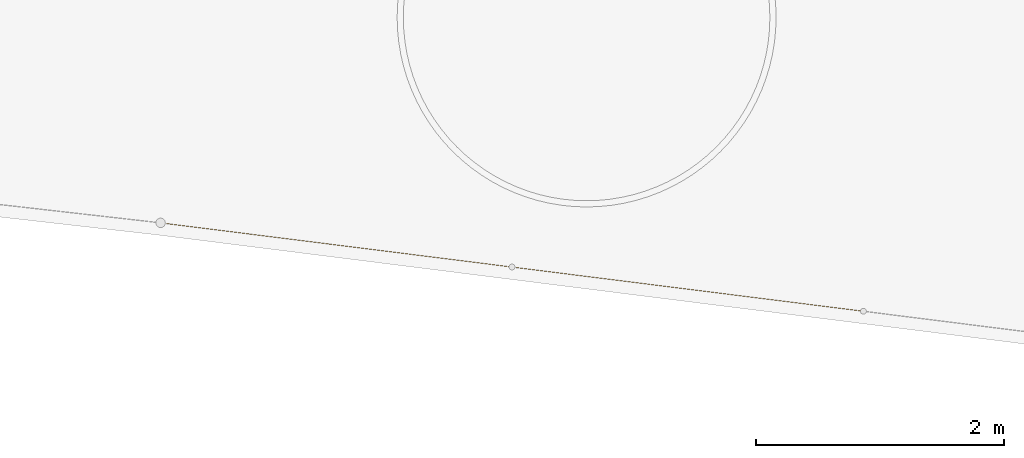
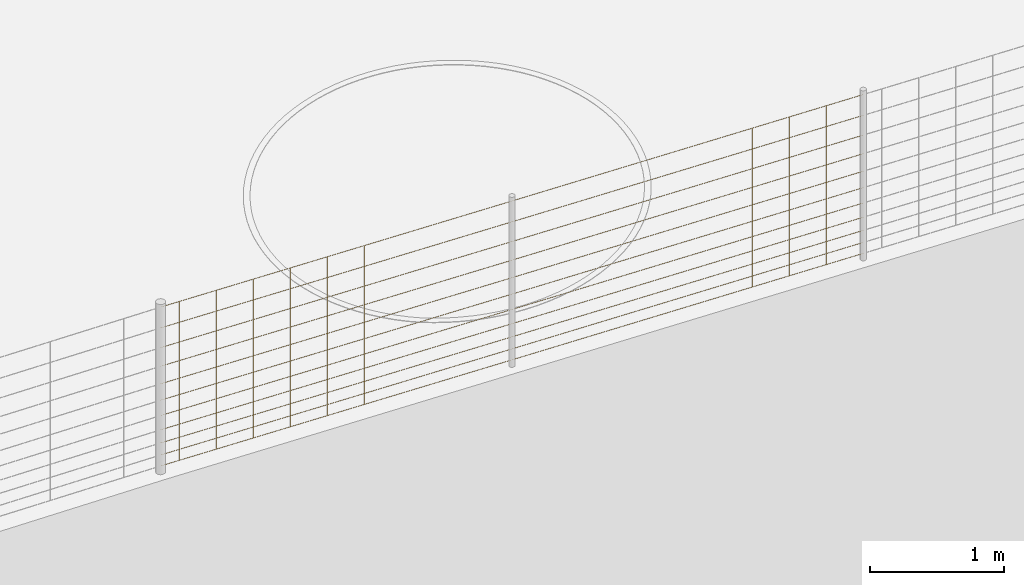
# Not in any storey, part 48 of 72: 2 railings.
"""IFC4 model written with IfcOpenShell, lengths in metres."""

from ifc_helpers import new_model, si_unit, direction, frame, origin_with_axes, place, context, subcontext, project, spatial, polygons, material, element, save


model = new_model("IFC4")

# Units and contexts
model_context = context("Model", 3, precision=1e-05, world=origin_with_axes(), true_north=direction((0.0, 1.0)))
body_context = subcontext(model_context, "Body", "Model", "MODEL_VIEW")
ifc_project = project(units=[si_unit("AREAUNIT", "SQUARE_METRE"), si_unit("VOLUMEUNIT", "CUBIC_METRE"), si_unit("LENGTHUNIT", "METRE")], contexts=[model_context])

# Site
site_placement = place(None, origin_with_axes())
site = spatial("IfcSite", under=ifc_project, at=site_placement, Name="Lares · Rua das Mercês · artigo 4771")

# Railings
ifc_material = material(Name="Aço galvanizado / Stahl verzinkt", Category="steel")
railing_1_placement = place(site_placement, frame((0.0, 0.0, 0.0), z_axis=(0.0, 0.0, 1.0), x_axis=(1.0, -1.03767253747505e-17, 0.0)))
element("IfcRailing", 1, at=railing_1_placement, inside=site, material=ifc_material, Name="Vedação · rede ovelheira 1.006", ObjectType="SHEEP_WIRE_FENCE", PredefinedType="USERDEFINED", context=body_context, shape_type="Tessellation", body=[
    polygons([(76.9519378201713, -5.73424272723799, 15.508550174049), (76.9518535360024, -5.73574394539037, 15.5070537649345), (76.9515634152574, -5.73721927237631, 15.508550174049), (76.9516476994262, -5.73571805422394, 15.5100465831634), (74.1236070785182, -5.37848097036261, 15.3109487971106), (74.1235227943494, -5.37998218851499, 15.3094523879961), (74.1232326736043, -5.38145751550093, 15.3109487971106), (74.1233169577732, -5.37995629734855, 15.3124452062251), (76.9519378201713, -5.73424272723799, 15.608550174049), (76.9518535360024, -5.73574394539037, 15.6070537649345), (76.9515634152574, -5.73721927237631, 15.608550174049), (76.9516476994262, -5.73571805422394, 15.6100465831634), (74.1236070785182, -5.37848097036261, 15.4109487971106), (74.1235227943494, -5.37998218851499, 15.4094523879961), (74.1232326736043, -5.38145751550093, 15.4109487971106), (74.1233169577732, -5.37995629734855, 15.4124452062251), (76.9519378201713, -5.73424272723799, 15.718550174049), (76.9518535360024, -5.73574394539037, 15.7170537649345), (76.9515634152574, -5.73721927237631, 15.718550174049), (76.9516476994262, -5.73571805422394, 15.7200465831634), (74.1236070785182, -5.37848097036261, 15.5209487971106), (74.1235227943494, -5.37998218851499, 15.5194523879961), (74.1232326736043, -5.38145751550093, 15.5209487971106), (74.1233169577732, -5.37995629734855, 15.5224452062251), (76.9519378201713, -5.73424272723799, 15.838550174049), (76.9518535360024, -5.73574394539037, 15.8370537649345), (76.9515634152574, -5.73721927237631, 15.838550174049), (76.9516476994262, -5.73571805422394, 15.8400465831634), (74.1236070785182, -5.37848097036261, 15.6409487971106), (74.1235227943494, -5.37998218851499, 15.6394523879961), (74.1232326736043, -5.38145751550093, 15.6409487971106), (74.1233169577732, -5.37995629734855, 15.6424452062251), (76.9519378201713, -5.73424272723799, 15.968550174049), (76.9518535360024, -5.73574394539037, 15.9670537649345), (76.9515634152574, -5.73721927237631, 15.968550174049), (76.9516476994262, -5.73571805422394, 15.9700465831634), (74.1236070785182, -5.37848097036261, 15.7709487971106), (74.1235227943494, -5.37998218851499, 15.7694523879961), (74.1232326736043, -5.38145751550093, 15.7709487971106), (74.1233169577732, -5.37995629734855, 15.7724452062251), (76.9519378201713, -5.73424272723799, 16.108550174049), (76.9518535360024, -5.73574394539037, 16.1070537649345), (76.9515634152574, -5.73721927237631, 16.108550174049), (76.9516476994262, -5.73571805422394, 16.1100465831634), (74.1236070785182, -5.37848097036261, 15.9109487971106), (74.1235227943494, -5.37998218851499, 15.9094523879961), (74.1232326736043, -5.38145751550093, 15.9109487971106), (74.1233169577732, -5.37995629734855, 15.9124452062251), (76.9519378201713, -5.73424272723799, 16.258550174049), (76.9518535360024, -5.73574394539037, 16.2570537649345), (76.9515634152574, -5.73721927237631, 16.258550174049), (76.9516476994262, -5.73571805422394, 16.2600465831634), (74.1236070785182, -5.37848097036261, 16.0609487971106), (74.1235227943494, -5.37998218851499, 16.0594523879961), (74.1232326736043, -5.38145751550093, 16.0609487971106), (74.1233169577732, -5.37995629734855, 16.0624452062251), (76.9519378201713, -5.73424272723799, 16.418550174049), (76.9518535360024, -5.73574394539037, 16.4170537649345), (76.9515634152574, -5.73721927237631, 16.418550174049), (76.9516476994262, -5.73571805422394, 16.4200465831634), (74.1236070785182, -5.37848097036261, 16.2209487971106), (74.1235227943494, -5.37998218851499, 16.2194523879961), (74.1232326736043, -5.38145751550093, 16.2209487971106), (74.1233169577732, -5.37995629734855, 16.2224452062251), (76.9519378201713, -5.73424272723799, 16.588550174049), (76.9518535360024, -5.73574394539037, 16.5870537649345), (76.9515634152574, -5.73721927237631, 16.588550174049), (76.9516476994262, -5.73571805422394, 16.5900465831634), (74.1236070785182, -5.37848097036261, 16.3909487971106), (74.1235227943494, -5.37998218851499, 16.3894523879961), (74.1232326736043, -5.38145751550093, 16.3909487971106), (74.1233169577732, -5.37995629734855, 16.3924452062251), (76.9519378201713, -5.73424272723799, 16.768550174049), (76.9518535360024, -5.73574394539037, 16.7670537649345), (76.9515634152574, -5.73721927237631, 16.768550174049), (76.9516476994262, -5.73571805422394, 16.7700465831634), (74.1236070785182, -5.37848097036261, 16.5709487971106), (74.1235227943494, -5.37998218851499, 16.5694523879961), (74.1232326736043, -5.38145751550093, 16.5709487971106), (74.1233169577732, -5.37995629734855, 16.5724452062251), (76.9519378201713, -5.73424272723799, 16.958550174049), (76.9518535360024, -5.73574394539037, 16.9570537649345), (76.9515634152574, -5.73721927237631, 16.958550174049), (76.9516476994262, -5.73571805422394, 16.9600465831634), (74.1236070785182, -5.37848097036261, 16.7609487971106), (74.1235227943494, -5.37998218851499, 16.7594523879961), (74.1232326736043, -5.38145751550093, 16.7609487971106), (74.1233169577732, -5.37995629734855, 16.7624452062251), (76.6540961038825, -5.69679050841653, 15.4877545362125), (76.6525961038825, -5.69829050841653, 15.4877545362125), (76.6540961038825, -5.69979050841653, 15.4877545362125), (76.6555961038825, -5.69829050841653, 15.4877545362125), (76.6540961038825, -5.69679050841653, 16.9377545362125), (76.6525961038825, -5.69829050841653, 16.9377545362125), (76.6540961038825, -5.69979050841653, 16.9377545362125), (76.6555961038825, -5.69829050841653, 16.9377545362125), (76.3564415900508, -5.65935001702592, 15.4669588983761), (76.3549415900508, -5.66085001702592, 15.4669588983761), (76.3564415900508, -5.66235001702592, 15.4669588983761), (76.3579415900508, -5.66085001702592, 15.4669588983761), (76.3564415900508, -5.65935001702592, 16.9169588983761), (76.3549415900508, -5.66085001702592, 16.9169588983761), (76.3564415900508, -5.66235001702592, 16.9169588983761), (76.3579415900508, -5.66085001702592, 16.9169588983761), (76.058787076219, -5.6219095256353, 15.4461632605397), (76.057287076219, -5.6234095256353, 15.4461632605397), (76.058787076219, -5.6249095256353, 15.4461632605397), (76.060287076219, -5.6234095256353, 15.4461632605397), (76.058787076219, -5.6219095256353, 16.8961632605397), (76.057287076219, -5.6234095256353, 16.8961632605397), (76.058787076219, -5.6249095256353, 16.8961632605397), (76.060287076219, -5.6234095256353, 16.8961632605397), (75.7611325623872, -5.58446903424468, 15.4253676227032), (75.7596325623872, -5.58596903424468, 15.4253676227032), (75.7611325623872, -5.58746903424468, 15.4253676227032), (75.7626325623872, -5.58596903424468, 15.4253676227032), (75.7611325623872, -5.58446903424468, 16.8753676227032), (75.7596325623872, -5.58596903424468, 16.8753676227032), (75.7611325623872, -5.58746903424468, 16.8753676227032), (75.7626325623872, -5.58596903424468, 16.8753676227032), (75.4634780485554, -5.54702854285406, 15.4045719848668), (75.4619780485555, -5.54852854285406, 15.4045719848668), (75.4634780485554, -5.55002854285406, 15.4045719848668), (75.4649780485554, -5.54852854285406, 15.4045719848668), (75.4634780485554, -5.54702854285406, 16.8545719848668), (75.4619780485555, -5.54852854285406, 16.8545719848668), (75.4634780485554, -5.55002854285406, 16.8545719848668), (75.4649780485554, -5.54852854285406, 16.8545719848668), (75.1658235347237, -5.50958805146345, 15.3837763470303), (75.1643235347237, -5.51108805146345, 15.3837763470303), (75.1658235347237, -5.51258805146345, 15.3837763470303), (75.1673235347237, -5.51108805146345, 15.3837763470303), (75.1658235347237, -5.50958805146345, 16.8337763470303), (75.1643235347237, -5.51108805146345, 16.8337763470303), (75.1658235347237, -5.51258805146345, 16.8337763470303), (75.1673235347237, -5.51108805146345, 16.8337763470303), (74.8681690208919, -5.47214756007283, 15.3629807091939), (74.8666690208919, -5.47364756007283, 15.3629807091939), (74.8681690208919, -5.47514756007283, 15.3629807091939), (74.8696690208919, -5.47364756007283, 15.3629807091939), (74.8681690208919, -5.47214756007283, 16.8129807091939), (74.8666690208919, -5.47364756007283, 16.8129807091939), (74.8681690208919, -5.47514756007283, 16.8129807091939), (74.8696690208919, -5.47364756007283, 16.8129807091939), (74.5705145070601, -5.43470706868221, 15.3421850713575), (74.5690145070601, -5.43620706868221, 15.3421850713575), (74.5705145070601, -5.43770706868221, 15.3421850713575), (74.5720145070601, -5.43620706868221, 15.3421850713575), (74.5705145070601, -5.43470706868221, 16.7921850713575), (74.5690145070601, -5.43620706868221, 16.7921850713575), (74.5705145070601, -5.43770706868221, 16.7921850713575), (74.5720145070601, -5.43620706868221, 16.7921850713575), (74.2728599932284, -5.39726657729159, 15.321389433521), (74.2713599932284, -5.39876657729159, 15.321389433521), (74.2728599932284, -5.40026657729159, 15.321389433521), (74.2743599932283, -5.39876657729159, 15.321389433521), (74.2728599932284, -5.39726657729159, 16.771389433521), (74.2713599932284, -5.39876657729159, 16.771389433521), (74.2728599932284, -5.40026657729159, 16.771389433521), (74.2743599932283, -5.39876657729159, 16.771389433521)], [[[4, 3, 2, 1]], [[5, 6, 7, 8]], [[1, 2, 6, 5]], [[2, 3, 7, 6]], [[3, 4, 8, 7]], [[4, 1, 5, 8]], [[12, 11, 10, 9]], [[13, 14, 15, 16]], [[9, 10, 14, 13]], [[10, 11, 15, 14]], [[11, 12, 16, 15]], [[12, 9, 13, 16]], [[20, 19, 18, 17]], [[21, 22, 23, 24]], [[17, 18, 22, 21]], [[18, 19, 23, 22]], [[19, 20, 24, 23]], [[20, 17, 21, 24]], [[28, 27, 26, 25]], [[29, 30, 31, 32]], [[25, 26, 30, 29]], [[26, 27, 31, 30]], [[27, 28, 32, 31]], [[28, 25, 29, 32]], [[36, 35, 34, 33]], [[37, 38, 39, 40]], [[33, 34, 38, 37]], [[34, 35, 39, 38]], [[35, 36, 40, 39]], [[36, 33, 37, 40]], [[44, 43, 42, 41]], [[45, 46, 47, 48]], [[41, 42, 46, 45]], [[42, 43, 47, 46]], [[43, 44, 48, 47]], [[44, 41, 45, 48]], [[52, 51, 50, 49]], [[53, 54, 55, 56]], [[49, 50, 54, 53]], [[50, 51, 55, 54]], [[51, 52, 56, 55]], [[52, 49, 53, 56]], [[60, 59, 58, 57]], [[61, 62, 63, 64]], [[57, 58, 62, 61]], [[58, 59, 63, 62]], [[59, 60, 64, 63]], [[60, 57, 61, 64]], [[68, 67, 66, 65]], [[69, 70, 71, 72]], [[65, 66, 70, 69]], [[66, 67, 71, 70]], [[67, 68, 72, 71]], [[68, 65, 69, 72]], [[76, 75, 74, 73]], [[77, 78, 79, 80]], [[73, 74, 78, 77]], [[74, 75, 79, 78]], [[75, 76, 80, 79]], [[76, 73, 77, 80]], [[84, 83, 82, 81]], [[85, 86, 87, 88]], [[81, 82, 86, 85]], [[82, 83, 87, 86]], [[83, 84, 88, 87]], [[84, 81, 85, 88]], [[92, 91, 90, 89]], [[93, 94, 95, 96]], [[89, 90, 94, 93]], [[90, 91, 95, 94]], [[91, 92, 96, 95]], [[92, 89, 93, 96]], [[100, 99, 98, 97]], [[101, 102, 103, 104]], [[97, 98, 102, 101]], [[98, 99, 103, 102]], [[99, 100, 104, 103]], [[100, 97, 101, 104]], [[108, 107, 106, 105]], [[109, 110, 111, 112]], [[105, 106, 110, 109]], [[106, 107, 111, 110]], [[107, 108, 112, 111]], [[108, 105, 109, 112]], [[116, 115, 114, 113]], [[117, 118, 119, 120]], [[113, 114, 118, 117]], [[114, 115, 119, 118]], [[115, 116, 120, 119]], [[116, 113, 117, 120]], [[124, 123, 122, 121]], [[125, 126, 127, 128]], [[121, 122, 126, 125]], [[122, 123, 127, 126]], [[123, 124, 128, 127]], [[124, 121, 125, 128]], [[132, 131, 130, 129]], [[133, 134, 135, 136]], [[129, 130, 134, 133]], [[130, 131, 135, 134]], [[131, 132, 136, 135]], [[132, 129, 133, 136]], [[140, 139, 138, 137]], [[141, 142, 143, 144]], [[137, 138, 142, 141]], [[138, 139, 143, 142]], [[139, 140, 144, 143]], [[140, 137, 141, 144]], [[148, 147, 146, 145]], [[149, 150, 151, 152]], [[145, 146, 150, 149]], [[146, 147, 151, 150]], [[147, 148, 152, 151]], [[148, 145, 149, 152]], [[156, 155, 154, 153]], [[157, 158, 159, 160]], [[153, 154, 158, 157]], [[154, 155, 159, 158]], [[155, 156, 160, 159]], [[156, 153, 157, 160]]]),
])
railing_2_placement = place(site_placement, frame((0.0, 0.0, 0.0), z_axis=(0.0, 0.0, 1.0), x_axis=(1.0, -1.03767253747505e-17, 0.0)))
element("IfcRailing", 2, at=railing_2_placement, inside=site, material=ifc_material, Name="Vedação · rede ovelheira 1.007", ObjectType="SHEEP_WIRE_FENCE", PredefinedType="USERDEFINED", context=body_context, shape_type="Tessellation", body=[
    polygons([(74.1236070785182, -5.37848097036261, 15.3109487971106), (74.1235209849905, -5.37998196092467, 15.3094522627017), (74.1232326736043, -5.38145751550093, 15.3109487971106), (74.1233187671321, -5.37995652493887, 15.3124453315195), (71.2952763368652, -5.02271921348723, 15.116837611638), (71.2951902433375, -5.02422020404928, 15.1153410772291), (71.2949019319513, -5.02569575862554, 15.116837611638), (71.2949880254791, -5.02419476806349, 15.1183341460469), (74.1236070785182, -5.37848097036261, 15.4109487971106), (74.1235209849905, -5.37998196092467, 15.4094522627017), (74.1232326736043, -5.38145751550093, 15.4109487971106), (74.1233187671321, -5.37995652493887, 15.4124453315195), (71.2952763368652, -5.02271921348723, 15.216837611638), (71.2951902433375, -5.02422020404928, 15.2153410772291), (71.2949019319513, -5.02569575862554, 15.216837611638), (71.2949880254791, -5.02419476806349, 15.2183341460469), (74.1236070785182, -5.37848097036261, 15.5209487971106), (74.1235209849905, -5.37998196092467, 15.5194522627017), (74.1232326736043, -5.38145751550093, 15.5209487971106), (74.1233187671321, -5.37995652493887, 15.5224453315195), (71.2952763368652, -5.02271921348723, 15.326837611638), (71.2951902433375, -5.02422020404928, 15.3253410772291), (71.2949019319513, -5.02569575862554, 15.326837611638), (71.2949880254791, -5.02419476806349, 15.3283341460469), (74.1236070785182, -5.37848097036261, 15.6409487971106), (74.1235209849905, -5.37998196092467, 15.6394522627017), (74.1232326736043, -5.38145751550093, 15.6409487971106), (74.1233187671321, -5.37995652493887, 15.6424453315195), (71.2952763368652, -5.02271921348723, 15.446837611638), (71.2951902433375, -5.02422020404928, 15.4453410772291), (71.2949019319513, -5.02569575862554, 15.446837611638), (71.2949880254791, -5.02419476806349, 15.4483341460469), (74.1236070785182, -5.37848097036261, 15.7709487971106), (74.1235209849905, -5.37998196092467, 15.7694522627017), (74.1232326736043, -5.38145751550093, 15.7709487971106), (74.1233187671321, -5.37995652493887, 15.7724453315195), (71.2952763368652, -5.02271921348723, 15.576837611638), (71.2951902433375, -5.02422020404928, 15.5753410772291), (71.2949019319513, -5.02569575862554, 15.576837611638), (71.2949880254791, -5.02419476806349, 15.5783341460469), (74.1236070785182, -5.37848097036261, 15.9109487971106), (74.1235209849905, -5.37998196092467, 15.9094522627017), (74.1232326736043, -5.38145751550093, 15.9109487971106), (74.1233187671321, -5.37995652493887, 15.9124453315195), (71.2952763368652, -5.02271921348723, 15.716837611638), (71.2951902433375, -5.02422020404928, 15.7153410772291), (71.2949019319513, -5.02569575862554, 15.716837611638), (71.2949880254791, -5.02419476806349, 15.7183341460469), (74.1236070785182, -5.37848097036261, 16.0609487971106), (74.1235209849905, -5.37998196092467, 16.0594522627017), (74.1232326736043, -5.38145751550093, 16.0609487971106), (74.1233187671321, -5.37995652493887, 16.0624453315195), (71.2952763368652, -5.02271921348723, 15.866837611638), (71.2951902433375, -5.02422020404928, 15.8653410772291), (71.2949019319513, -5.02569575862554, 15.866837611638), (71.2949880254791, -5.02419476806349, 15.8683341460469), (74.1236070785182, -5.37848097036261, 16.2209487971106), (74.1235209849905, -5.37998196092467, 16.2194522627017), (74.1232326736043, -5.38145751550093, 16.2209487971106), (74.1233187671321, -5.37995652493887, 16.2224453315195), (71.2952763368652, -5.02271921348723, 16.026837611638), (71.2951902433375, -5.02422020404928, 16.0253410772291), (71.2949019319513, -5.02569575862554, 16.026837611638), (71.2949880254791, -5.02419476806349, 16.0283341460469), (74.1236070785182, -5.37848097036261, 16.3909487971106), (74.1235209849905, -5.37998196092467, 16.3894522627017), (74.1232326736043, -5.38145751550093, 16.3909487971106), (74.1233187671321, -5.37995652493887, 16.3924453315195), (71.2952763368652, -5.02271921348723, 16.196837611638), (71.2951902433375, -5.02422020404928, 16.1953410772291), (71.2949019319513, -5.02569575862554, 16.196837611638), (71.2949880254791, -5.02419476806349, 16.1983341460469), (74.1236070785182, -5.37848097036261, 16.5709487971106), (74.1235209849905, -5.37998196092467, 16.5694522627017), (74.1232326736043, -5.38145751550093, 16.5709487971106), (74.1233187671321, -5.37995652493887, 16.5724453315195), (71.2952763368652, -5.02271921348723, 16.376837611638), (71.2951902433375, -5.02422020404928, 16.3753410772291), (71.2949019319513, -5.02569575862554, 16.376837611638), (71.2949880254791, -5.02419476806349, 16.3783341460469), (74.1236070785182, -5.37848097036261, 16.7609487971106), (74.1235209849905, -5.37998196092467, 16.7594522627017), (74.1232326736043, -5.38145751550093, 16.7609487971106), (74.1233187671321, -5.37995652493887, 16.7624453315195), (71.2952763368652, -5.02271921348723, 16.566837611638), (71.2951902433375, -5.02422020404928, 16.5653410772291), (71.2949019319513, -5.02569575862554, 16.566837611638), (71.2949880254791, -5.02419476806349, 16.5683341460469), (73.8257653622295, -5.34102875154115, 15.2905204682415), (73.8242653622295, -5.34252875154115, 15.2905204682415), (73.8257653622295, -5.34402875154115, 15.2905204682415), (73.8272653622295, -5.34252875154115, 15.2905204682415), (73.8257653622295, -5.34102875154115, 16.7405204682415), (73.8242653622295, -5.34252875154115, 16.7405204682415), (73.8257653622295, -5.34402875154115, 16.7405204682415), (73.8272653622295, -5.34252875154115, 16.7405204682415), (73.5281108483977, -5.30358826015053, 15.2700921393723), (73.5266108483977, -5.30508826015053, 15.2700921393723), (73.5281108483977, -5.30658826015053, 15.2700921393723), (73.5296108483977, -5.30508826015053, 15.2700921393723), (73.5281108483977, -5.30358826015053, 16.7200921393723), (73.5266108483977, -5.30508826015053, 16.7200921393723), (73.5281108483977, -5.30658826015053, 16.7200921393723), (73.5296108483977, -5.30508826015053, 16.7200921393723), (73.230456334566, -5.26614776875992, 15.2496638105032), (73.228956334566, -5.26764776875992, 15.2496638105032), (73.230456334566, -5.26914776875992, 15.2496638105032), (73.231956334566, -5.26764776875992, 15.2496638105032), (73.230456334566, -5.26614776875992, 16.6996638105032), (73.228956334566, -5.26764776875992, 16.6996638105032), (73.230456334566, -5.26914776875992, 16.6996638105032), (73.231956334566, -5.26764776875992, 16.6996638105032), (72.9328018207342, -5.2287072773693, 15.2292354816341), (72.9313018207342, -5.2302072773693, 15.2292354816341), (72.9328018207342, -5.2317072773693, 15.2292354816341), (72.9343018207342, -5.2302072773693, 15.2292354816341), (72.9328018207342, -5.2287072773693, 16.6792354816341), (72.9313018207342, -5.2302072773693, 16.6792354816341), (72.9328018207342, -5.2317072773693, 16.6792354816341), (72.9343018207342, -5.2302072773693, 16.6792354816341), (72.6351473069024, -5.19126678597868, 15.2088071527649), (72.6336473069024, -5.19276678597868, 15.2088071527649), (72.6351473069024, -5.19426678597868, 15.2088071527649), (72.6366473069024, -5.19276678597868, 15.2088071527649), (72.6351473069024, -5.19126678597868, 16.6588071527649), (72.6336473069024, -5.19276678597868, 16.6588071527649), (72.6351473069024, -5.19426678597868, 16.6588071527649), (72.6366473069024, -5.19276678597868, 16.6588071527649), (72.3374927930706, -5.15382629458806, 15.1883788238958), (72.3359927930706, -5.15532629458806, 15.1883788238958), (72.3374927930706, -5.15682629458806, 15.1883788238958), (72.3389927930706, -5.15532629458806, 15.1883788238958), (72.3374927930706, -5.15382629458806, 16.6383788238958), (72.3359927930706, -5.15532629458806, 16.6383788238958), (72.3374927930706, -5.15682629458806, 16.6383788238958), (72.3389927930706, -5.15532629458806, 16.6383788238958), (72.0398382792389, -5.11638580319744, 15.1679504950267), (72.0383382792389, -5.11788580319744, 15.1679504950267), (72.0398382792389, -5.11938580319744, 15.1679504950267), (72.0413382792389, -5.11788580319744, 15.1679504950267), (72.0398382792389, -5.11638580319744, 16.6179504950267), (72.0383382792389, -5.11788580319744, 16.6179504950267), (72.0398382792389, -5.11938580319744, 16.6179504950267), (72.0413382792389, -5.11788580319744, 16.6179504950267), (71.7421837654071, -5.07894531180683, 15.1475221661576), (71.7406837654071, -5.08044531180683, 15.1475221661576), (71.7421837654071, -5.08194531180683, 15.1475221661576), (71.7436837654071, -5.08044531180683, 15.1475221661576), (71.7421837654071, -5.07894531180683, 16.5975221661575), (71.7406837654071, -5.08044531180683, 16.5975221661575), (71.7421837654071, -5.08194531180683, 16.5975221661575), (71.7436837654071, -5.08044531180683, 16.5975221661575), (71.4445292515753, -5.04150482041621, 15.1270938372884), (71.4430292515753, -5.04300482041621, 15.1270938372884), (71.4445292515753, -5.04450482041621, 15.1270938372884), (71.4460292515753, -5.04300482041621, 15.1270938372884), (71.4445292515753, -5.04150482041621, 16.5770938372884), (71.4430292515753, -5.04300482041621, 16.5770938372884), (71.4445292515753, -5.04450482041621, 16.5770938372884), (71.4460292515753, -5.04300482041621, 16.5770938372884)], [[[4, 3, 2, 1]], [[5, 6, 7, 8]], [[1, 2, 6, 5]], [[2, 3, 7, 6]], [[3, 4, 8, 7]], [[4, 1, 5, 8]], [[12, 11, 10, 9]], [[13, 14, 15, 16]], [[9, 10, 14, 13]], [[10, 11, 15, 14]], [[11, 12, 16, 15]], [[12, 9, 13, 16]], [[20, 19, 18, 17]], [[21, 22, 23, 24]], [[17, 18, 22, 21]], [[18, 19, 23, 22]], [[19, 20, 24, 23]], [[20, 17, 21, 24]], [[28, 27, 26, 25]], [[29, 30, 31, 32]], [[25, 26, 30, 29]], [[26, 27, 31, 30]], [[27, 28, 32, 31]], [[28, 25, 29, 32]], [[36, 35, 34, 33]], [[37, 38, 39, 40]], [[33, 34, 38, 37]], [[34, 35, 39, 38]], [[35, 36, 40, 39]], [[36, 33, 37, 40]], [[44, 43, 42, 41]], [[45, 46, 47, 48]], [[41, 42, 46, 45]], [[42, 43, 47, 46]], [[43, 44, 48, 47]], [[44, 41, 45, 48]], [[52, 51, 50, 49]], [[53, 54, 55, 56]], [[49, 50, 54, 53]], [[50, 51, 55, 54]], [[51, 52, 56, 55]], [[52, 49, 53, 56]], [[60, 59, 58, 57]], [[61, 62, 63, 64]], [[57, 58, 62, 61]], [[58, 59, 63, 62]], [[59, 60, 64, 63]], [[60, 57, 61, 64]], [[68, 67, 66, 65]], [[69, 70, 71, 72]], [[65, 66, 70, 69]], [[66, 67, 71, 70]], [[67, 68, 72, 71]], [[68, 65, 69, 72]], [[76, 75, 74, 73]], [[77, 78, 79, 80]], [[73, 74, 78, 77]], [[74, 75, 79, 78]], [[75, 76, 80, 79]], [[76, 73, 77, 80]], [[84, 83, 82, 81]], [[85, 86, 87, 88]], [[81, 82, 86, 85]], [[82, 83, 87, 86]], [[83, 84, 88, 87]], [[84, 81, 85, 88]], [[92, 91, 90, 89]], [[93, 94, 95, 96]], [[89, 90, 94, 93]], [[90, 91, 95, 94]], [[91, 92, 96, 95]], [[92, 89, 93, 96]], [[100, 99, 98, 97]], [[101, 102, 103, 104]], [[97, 98, 102, 101]], [[98, 99, 103, 102]], [[99, 100, 104, 103]], [[100, 97, 101, 104]], [[108, 107, 106, 105]], [[109, 110, 111, 112]], [[105, 106, 110, 109]], [[106, 107, 111, 110]], [[107, 108, 112, 111]], [[108, 105, 109, 112]], [[116, 115, 114, 113]], [[117, 118, 119, 120]], [[113, 114, 118, 117]], [[114, 115, 119, 118]], [[115, 116, 120, 119]], [[116, 113, 117, 120]], [[124, 123, 122, 121]], [[125, 126, 127, 128]], [[121, 122, 126, 125]], [[122, 123, 127, 126]], [[123, 124, 128, 127]], [[124, 121, 125, 128]], [[132, 131, 130, 129]], [[133, 134, 135, 136]], [[129, 130, 134, 133]], [[130, 131, 135, 134]], [[131, 132, 136, 135]], [[132, 129, 133, 136]], [[140, 139, 138, 137]], [[141, 142, 143, 144]], [[137, 138, 142, 141]], [[138, 139, 143, 142]], [[139, 140, 144, 143]], [[140, 137, 141, 144]], [[148, 147, 146, 145]], [[149, 150, 151, 152]], [[145, 146, 150, 149]], [[146, 147, 151, 150]], [[147, 148, 152, 151]], [[148, 145, 149, 152]], [[156, 155, 154, 153]], [[157, 158, 159, 160]], [[153, 154, 158, 157]], [[154, 155, 159, 158]], [[155, 156, 160, 159]], [[156, 153, 157, 160]]]),
])

save(model, "model.ifc")
